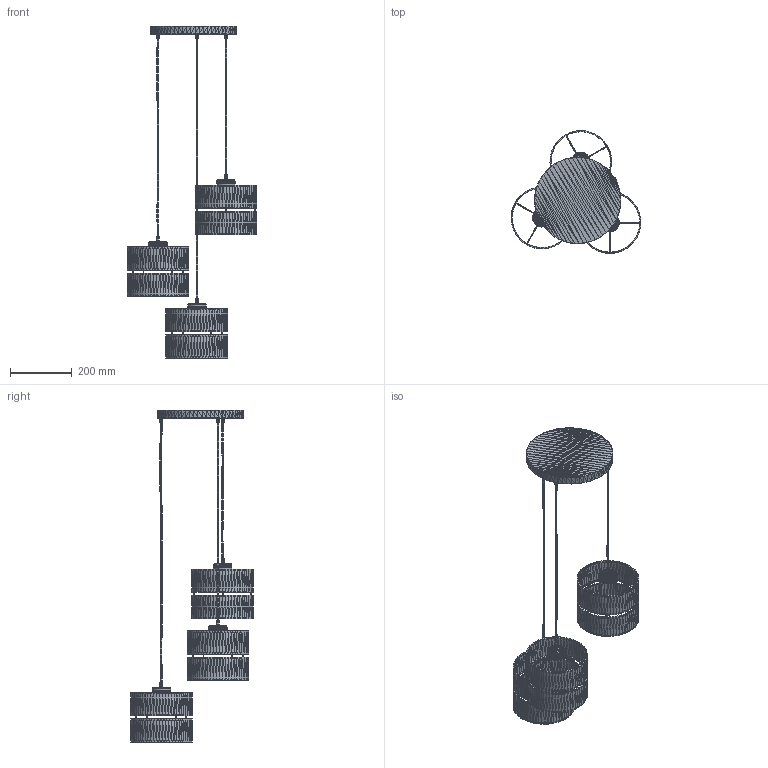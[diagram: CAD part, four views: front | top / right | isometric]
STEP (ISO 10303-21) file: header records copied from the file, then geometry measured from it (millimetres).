
FILE_DESCRIPTION(('FreeCAD Model'),'2;1');
FILE_NAME('Open CASCADE Shape Model','2022-11-30T08:36:54',('Author'),( ''),'Open CASCADE STEP processor 7.6','FreeCAD','Unknown');
FILE_SCHEMA(('AUTOMOTIVE_DESIGN { 1 0 10303 214 1 1 1 1 }'));
Length unit declared in the file: millimetre
Products named in the file (120): Unnamed; Mesh122 (Solid); Mesh001001 (Solid); Mesh002001 (Solid); Mesh003001 (Solid); Mesh004001 (Solid); Mesh005001 (Solid); Mesh006001 (Solid); Mesh007001 (Solid); Mesh008001 (Solid); Mesh009001 (Solid); Mesh010001 (Solid); Mesh011001 (Solid); Mesh012001 (Solid); Mesh013001 (Solid); Mesh015001 (Solid); Mesh016001 (Solid); Mesh017001 (Solid); Mesh018001 (Solid); Mesh019001 (Solid); Mesh020001 (Solid); Mesh021001 (Solid); Mesh022001 (Solid); Mesh023001 (Solid); Mesh024001 (Solid); Mesh025001 (Solid); Mesh026001 (Solid); Mesh027001 (Solid); Mesh028001 (Solid); Mesh029001 (Solid); Mesh030001 (Solid); Mesh031001 (Solid); Mesh032001 (Solid); Mesh033001 (Solid); Mesh034001 (Solid); Mesh035001 (Solid); Mesh036001 (Solid); Mesh037001 (Solid); Mesh038001 (Solid); Mesh039001 (Solid)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
Assembly tree (119 placements, depth 2):
  Unnamed
    Mesh122 (Solid)
    Mesh001001 (Solid)
    Mesh002001 (Solid)
    Mesh003001 (Solid)
    Mesh004001 (Solid)
    Mesh005001 (Solid)
    Mesh006001 (Solid)
    Mesh007001 (Solid)
    Mesh008001 (Solid)
    Mesh009001 (Solid)
    Mesh010001 (Solid)
    Mesh011001 (Solid)
    Mesh012001 (Solid)
    Mesh013001 (Solid)
    Mesh015001 (Solid)
    Mesh016001 (Solid)
    Mesh017001 (Solid)
    Mesh018001 (Solid)
    Mesh019001 (Solid)
    Mesh020001 (Solid)
    Mesh021001 (Solid)
    Mesh022001 (Solid)
    Mesh023001 (Solid)
    Mesh024001 (Solid)
    Mesh025001 (Solid)
    Mesh026001 (Solid)
    Mesh027001 (Solid)
    Mesh028001 (Solid)
    Mesh029001 (Solid)
    Mesh030001 (Solid)
    Mesh031001 (Solid)
    Mesh032001 (Solid)
    Mesh033001 (Solid)
    Mesh034001 (Solid)
    Mesh035001 (Solid)
    Mesh036001 (Solid)
    Mesh037001 (Solid)
    Mesh038001 (Solid)
    Mesh039001 (Solid)
    Mesh040001 (Solid)
    Mesh041001 (Solid)
    Mesh042001 (Solid)
    Mesh043001 (Solid)
    Mesh044001 (Solid)
    Mesh045001 (Solid)
    Mesh046001 (Solid)
    Mesh047001 (Solid)
    Mesh048001 (Solid)
    Mesh049001 (Solid)
    Mesh051001 (Solid)
    Mesh052001 (Solid)
    Mesh053001 (Solid)
    Mesh054001 (Solid)
    Mesh055001 (Solid)
    Mesh056001 (Solid)
    Mesh057001 (Solid)
    Mesh058001 (Solid)
    Mesh059001 (Solid)
    Mesh060001 (Solid)
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Bounding box: 420.39 x 398.54 x 1076 mm (x, y, z)
Volume: 1831486.6 mm3; surface area: 613070.2 mm2
Topology: 82 solids, 260 shells, 26290 faces, 41115 edges, 14993 vertices
Faces by surface type: plane 26290
Entity records: 1042440 total; most frequent: DIRECTION 172802, CARTESIAN_POINT 161157, LINE 119502, VECTOR 119502, ORIENTED_EDGE 79590, PCURVE 78255, DEFINITIONAL_REPRESENTATION 78255, EDGE_CURVE 41247
